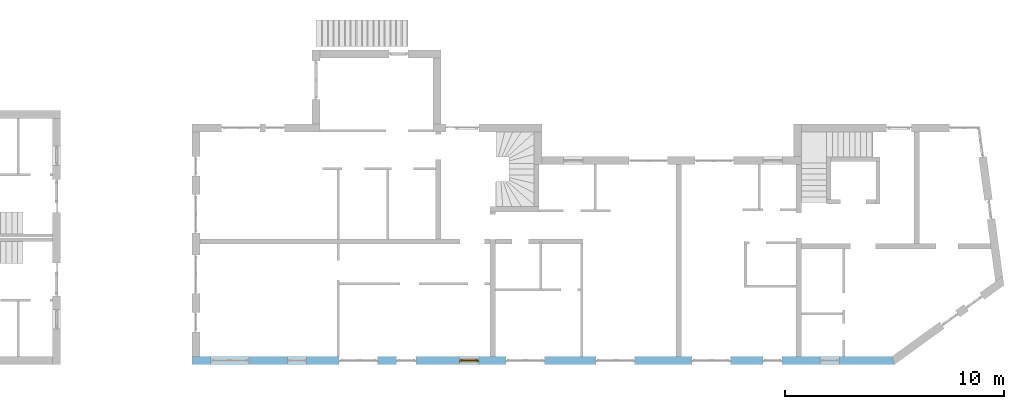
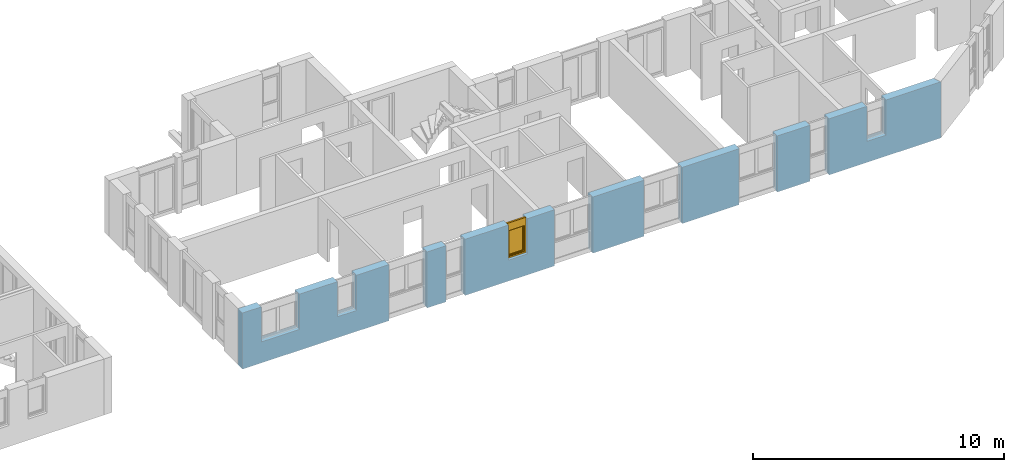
# One storey, part 27 of 41: 1 window, 10 openings, plus 1 element that does not belong to this part.
"""IFC2X3 building model written with IfcOpenShell, lengths in millimetres."""

from ifc_helpers import new_model, entity, si_unit, converted_unit, frame, frame_2d, origin, origin_with_axes, place, context, subcontext, project, spatial, polyline, rectangle, outline, extrude, faceted_brep, material, layer, layer_set, layer_usage, type_object, element, fill, save


model = new_model("IFC2X3")

# Units and contexts
model_context = context("Model", 3, precision=1e-05, world=origin())
body_context = subcontext(model_context, "Body", "Model", "MODEL_VIEW")
ifc_project = project(units=[si_unit("LENGTHUNIT", "METRE", prefix="MILLI"), converted_unit("PLANEANGLEUNIT", "DEGREE", entity("IfcPlaneAngleMeasure", 0.0174532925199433), si_unit("PLANEANGLEUNIT", "RADIAN"), dimensions=[0, 0, 0, 0, 0, 0, 0]), si_unit("AREAUNIT", "SQUARE_METRE"), si_unit("VOLUMEUNIT", "CUBIC_METRE")], contexts=[model_context])

# Building, storey
building_placement = place(None, origin())
building = spatial("IfcBuilding", under=ifc_project, at=building_placement, Name="Gebäude", CompositionType="ELEMENT")
storey_placement = place(building_placement, frame((0.0, 0.0, -200.0), z_axis=(0.0, 0.0, 1.0), x_axis=(1.0, 0.0, 0.0)))
storey = spatial("IfcBuildingStorey", under=building, at=storey_placement, Name="EG.- Grundriss", CompositionType="ELEMENT", Elevation=-200.0)

# Wall, openings, window
ifc_material_1 = material(Name="Poroton")
ifc_layer = layer(ifc_material_1, 365.0000000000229)
ifc_layer_set = layer_set([ifc_layer])
ifc_layer_usage = layer_usage(ifc_layer_set, "AXIS2", "POSITIVE", 0.0)
wall_placement = place(storey_placement, frame((148357.7928067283, 125274.8877324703, 0.0), z_axis=(0.0, 0.0, 1.0), x_axis=(1.0, -2.749268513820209e-11, 0.0)))
wall = element("IfcWallStandardCase", 1, at=wall_placement, inside=storey, material=ifc_layer_usage, Name="<Unnamed Element>", context=body_context, shape_type="SweptSolid", body=[
    extrude(outline(polyline([(0.0, 0.0), (32144.99999877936, 0.0), (32026.74038666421, 365.0000000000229), (-1.003483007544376e-08, 365.0), (0.0, 0.0)])), origin_with_axes(), (0.0, 0.0, 1.0), 2730.0),
])
opening_1_placement = place(wall_placement, frame((28740.29648749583, -1.103025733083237e-10, 1020.0), z_axis=(0.0, 1.0, 0.0), x_axis=(0.0, 0.0, 1.0)))
element("IfcOpeningElement", 2, at=opening_1_placement, cuts=wall, Name="Fensteröffnung", ObjectType="Opening", context=body_context, shape_type="SweptSolid", body=[
    extrude(rectangle(XDim=1710.0, YDim=885.0, at=frame_2d((855.0, 442.5), x_axis=(1.0, 0.0))), origin_with_axes(), (0.0, 0.0, 1.0), 365.0000000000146),
])
opening_2_placement = place(wall_placement, frame((26115.29648749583, -1.048456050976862e-10, 0.0), z_axis=(0.0, 1.0, 0.0), x_axis=(0.0, 0.0, 1.0)))
element("IfcOpeningElement", 3, at=opening_2_placement, cuts=wall, Name="Fensteröffnung", ObjectType="Opening", context=body_context, shape_type="SweptSolid", body=[
    extrude(rectangle(XDim=2730.0, YDim=885.0, at=frame_2d((1365.0, 442.5), x_axis=(1.0, 0.0))), origin_with_axes(), (0.0, 0.0, 1.0), 365.0000000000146),
])
opening_3_placement = place(wall_placement, frame((22865.29648749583, -7.937975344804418e-11, 0.0), z_axis=(0.0, 1.0, 0.0), x_axis=(0.0, 0.0, 1.0)))
element("IfcOpeningElement", 4, at=opening_3_placement, cuts=wall, Name="Fensteröffnung", ObjectType="Opening", context=body_context, shape_type="SweptSolid", body=[
    extrude(rectangle(XDim=2730.0, YDim=1760.0, at=frame_2d((1365.0, 880.0), x_axis=(1.0, 0.0))), origin_with_axes(), (0.0, 0.0, 1.0), 365.0000000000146),
])
opening_4_placement = place(wall_placement, frame((18490.51063065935, -4.984640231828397e-11, 0.0), z_axis=(0.0, 1.0, 0.0), x_axis=(0.0, 0.0, 1.0)))
element("IfcOpeningElement", 5, at=opening_4_placement, cuts=wall, Name="Fensteröffnung", ObjectType="Opening", context=body_context, shape_type="SweptSolid", body=[
    extrude(rectangle(XDim=2730.0, YDim=1760.0, at=frame_2d((1365.0, 880.0), x_axis=(1.0, 0.0))), origin_with_axes(), (0.0, 0.0, 1.0), 365.0000000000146),
])
opening_5_placement = place(wall_placement, frame((14365.26291871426, -7.302655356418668e-11, 0.0), z_axis=(0.0, 1.0, 0.0), x_axis=(0.0, 0.0, 1.0)))
element("IfcOpeningElement", 6, at=opening_5_placement, cuts=wall, Name="Fensteröffnung", ObjectType="Opening", context=body_context, shape_type="SweptSolid", body=[
    extrude(rectangle(XDim=2730.0, YDim=1760.0, at=frame_2d((1365.0, 880.0), x_axis=(1.0, 0.0))), origin_with_axes(), (0.0, 0.0, 1.0), 365.0000000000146),
])
opening_6_placement = place(wall_placement, frame((12240.0, -5.296897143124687e-11, 1020.0), z_axis=(0.0, 1.0, 0.0), x_axis=(0.0, 0.0, 1.0)))
opening_6 = element("IfcOpeningElement", 7, at=opening_6_placement, cuts=wall, Name="Fensteröffnung", ObjectType="Opening", context=body_context, shape_type="SweptSolid", body=[
    extrude(rectangle(XDim=1710.0, YDim=885.0, at=frame_2d((855.0, 442.5), x_axis=(1.0, 0.0))), origin_with_axes(), (0.0, 0.0, 1.0), 365.0000000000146),
])
opening_7_placement = place(wall_placement, frame((9365.0, -3.659806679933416e-11, 0.0), z_axis=(0.0, 1.0, 0.0), x_axis=(0.0, 0.0, 1.0)))
element("IfcOpeningElement", 8, at=opening_7_placement, cuts=wall, Name="Fensteröffnung", ObjectType="Opening", context=body_context, shape_type="SweptSolid", body=[
    extrude(rectangle(XDim=2730.0, YDim=885.0, at=frame_2d((1365.0, 442.5), x_axis=(1.0, 0.0))), origin_with_axes(), (0.0, 0.0, 1.0), 365.0000000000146),
])
opening_8_placement = place(wall_placement, frame((6740.0, -3.114109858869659e-11, 0.0), z_axis=(0.0, 1.0, 0.0), x_axis=(0.0, 0.0, 1.0)))
element("IfcOpeningElement", 9, at=opening_8_placement, cuts=wall, Name="Fensteröffnung", ObjectType="Opening", context=body_context, shape_type="SweptSolid", body=[
    extrude(rectangle(XDim=2730.0, YDim=1760.0, at=frame_2d((1365.0, 880.0), x_axis=(1.0, 0.0))), origin_with_axes(), (0.0, 0.0, 1.0), 365.0000000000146),
])
opening_9_placement = place(wall_placement, frame((4365.0, -7.494236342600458e-12, 1020.0), z_axis=(0.0, 1.0, 0.0), x_axis=(0.0, 0.0, 1.0)))
element("IfcOpeningElement", 10, at=opening_9_placement, cuts=wall, Name="Fensteröffnung", ObjectType="Opening", context=body_context, shape_type="SweptSolid", body=[
    extrude(rectangle(XDim=1710.0, YDim=885.0, at=frame_2d((855.0, 442.5), x_axis=(1.0, 0.0))), origin_with_axes(), (0.0, 0.0, 1.0), 365.0000000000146),
])
opening_10_placement = place(wall_placement, frame((865.0, -2.182787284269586e-13, 1020.0), z_axis=(0.0, 1.0, 0.0), x_axis=(0.0, 0.0, 1.0)))
element("IfcOpeningElement", 11, at=opening_10_placement, cuts=wall, Name="Fensteröffnung", ObjectType="Opening", context=body_context, shape_type="SweptSolid", body=[
    extrude(rectangle(XDim=1710.0, YDim=1760.0, at=frame_2d((854.9999999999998, 880.0), x_axis=(1.0, 0.0))), origin_with_axes(), (0.0, 0.0, 1.0), 365.0000000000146),
])
ifc_material_2 = material()
window_style = type_object("IfcWindowStyle", Name="Fenster", ConstructionType="NOTDEFINED", OperationType="USERDEFINED", ParameterTakesPrecedence=False, Sizeable=False)
window_placement = place(opening_6_placement, frame((0.0, 0.0, 0.0), z_axis=(1.0, 0.0, 0.0), x_axis=(0.0, 1.0, 0.0)))
window = element("IfcWindow", 12, at=window_placement, inside=storey, type_object=window_style, material=ifc_material_2, Name="Fenster", OverallHeight=1710.0, OverallWidth=885.0, context=body_context, shape_type="Brep", body=[
    faceted_brep([(-1.221113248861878e-08, 200.000000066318, 1710.0), (-1.221113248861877e-08, 200.0000000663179, -2.449293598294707e-15), (69.99999998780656, 200.0000000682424, -2.449293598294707e-15), (69.99999998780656, 200.0000000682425, 1710.0), (-1.001171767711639e-08, 120.0000000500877, 2.449293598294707e-15), (-1.00117176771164e-08, 120.0000000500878, 1710.0), (69.99999999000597, 120.0000000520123, 1710.0), (69.99999999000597, 120.0000000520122, 2.449293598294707e-15), (-1.221113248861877e-08, 200.0000000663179, -2.449293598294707e-15), (-1.221113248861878e-08, 200.000000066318, 1710.0), (-1.00117176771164e-08, 120.0000000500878, 1710.0), (-1.001171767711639e-08, 120.0000000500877, 2.449293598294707e-15), (69.99999998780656, 200.0000000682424, -2.449293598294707e-15), (-1.221113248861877e-08, 200.0000000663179, -2.449293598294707e-15), (-1.001171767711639e-08, 120.0000000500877, 2.449293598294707e-15), (69.99999999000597, 120.0000000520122, 2.449293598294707e-15), (69.99999998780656, 200.0000000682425, 1710.0), (69.99999998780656, 200.0000000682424, -2.449293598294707e-15), (69.99999999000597, 120.0000000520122, 2.449293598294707e-15), (69.99999999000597, 120.0000000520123, 1710.0), (-1.221113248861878e-08, 200.000000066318, 1710.0), (69.99999998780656, 200.0000000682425, 1710.0), (69.99999999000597, 120.0000000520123, 1710.0), (-1.00117176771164e-08, 120.0000000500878, 1710.0)], [[[0, 1, 2, 3]], [[4, 5, 6, 7]], [[8, 9, 10, 11]], [[12, 13, 14, 15]], [[16, 17, 18, 19]], [[20, 21, 22, 23]]], orient=[[False], [False], [False], [False], [False], [False]]),
    faceted_brep([(814.9999999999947, 200.0000000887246, 1710.0), (814.9999999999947, 200.0000000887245, -2.449293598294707e-15), (885.0000000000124, 200.0000000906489, -2.449293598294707e-15), (885.0000000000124, 200.0000000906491, 1710.0), (815.000000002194, 120.0000000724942, 2.449293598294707e-15), (815.000000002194, 120.0000000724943, 1710.0), (885.0000000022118, 120.0000000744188, 1710.0), (885.0000000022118, 120.0000000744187, 2.449293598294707e-15), (814.9999999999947, 200.0000000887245, -2.449293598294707e-15), (814.9999999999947, 200.0000000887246, 1710.0), (815.000000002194, 120.0000000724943, 1710.0), (815.000000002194, 120.0000000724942, 2.449293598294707e-15), (885.0000000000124, 200.0000000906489, -2.449293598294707e-15), (814.9999999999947, 200.0000000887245, -2.449293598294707e-15), (815.000000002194, 120.0000000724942, 2.449293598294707e-15), (885.0000000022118, 120.0000000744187, 2.449293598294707e-15), (885.0000000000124, 200.0000000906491, 1710.0), (885.0000000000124, 200.0000000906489, -2.449293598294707e-15), (885.0000000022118, 120.0000000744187, 2.449293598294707e-15), (885.0000000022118, 120.0000000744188, 1710.0), (814.9999999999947, 200.0000000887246, 1710.0), (885.0000000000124, 200.0000000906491, 1710.0), (885.0000000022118, 120.0000000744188, 1710.0), (815.000000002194, 120.0000000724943, 1710.0)], [[[0, 1, 2, 3]], [[4, 5, 6, 7]], [[8, 9, 10, 11]], [[12, 13, 14, 15]], [[16, 17, 18, 19]], [[20, 21, 22, 23]]], orient=[[False], [False], [False], [False], [False], [False]]),
    faceted_brep([(69.99999998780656, 200.0000000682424, 70.0), (69.99999998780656, 200.0000000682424, -2.449293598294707e-15), (814.9999999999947, 200.0000000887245, -2.449293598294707e-15), (814.9999999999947, 200.0000000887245, 70.0), (69.99999999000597, 120.0000000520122, 2.449293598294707e-15), (69.99999999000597, 120.0000000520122, 70.0), (815.000000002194, 120.0000000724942, 70.0), (815.000000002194, 120.0000000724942, 2.449293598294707e-15), (69.99999998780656, 200.0000000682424, -2.449293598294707e-15), (69.99999998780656, 200.0000000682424, 70.0), (69.99999999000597, 120.0000000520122, 70.0), (69.99999999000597, 120.0000000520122, 2.449293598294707e-15), (814.9999999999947, 200.0000000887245, -2.449293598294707e-15), (69.99999998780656, 200.0000000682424, -2.449293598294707e-15), (69.99999999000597, 120.0000000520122, 2.449293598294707e-15), (815.000000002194, 120.0000000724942, 2.449293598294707e-15), (814.9999999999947, 200.0000000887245, 70.0), (814.9999999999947, 200.0000000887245, -2.449293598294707e-15), (815.000000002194, 120.0000000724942, 2.449293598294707e-15), (815.000000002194, 120.0000000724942, 70.0), (69.99999998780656, 200.0000000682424, 70.0), (814.9999999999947, 200.0000000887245, 70.0), (815.000000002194, 120.0000000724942, 70.0), (69.99999999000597, 120.0000000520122, 70.0)], [[[0, 1, 2, 3]], [[4, 5, 6, 7]], [[8, 9, 10, 11]], [[12, 13, 14, 15]], [[16, 17, 18, 19]], [[20, 21, 22, 23]]], orient=[[False], [False], [False], [False], [False], [False]]),
    faceted_brep([(69.99999998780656, 200.0000000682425, 1710.0), (69.99999998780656, 200.0000000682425, 1340.0), (814.9999999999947, 200.0000000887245, 1340.0), (814.9999999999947, 200.0000000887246, 1710.0), (69.99999999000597, 120.0000000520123, 1340.0), (69.99999999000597, 120.0000000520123, 1710.0), (815.000000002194, 120.0000000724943, 1710.0), (815.000000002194, 120.0000000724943, 1340.0), (69.99999998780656, 200.0000000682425, 1340.0), (69.99999998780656, 200.0000000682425, 1710.0), (69.99999999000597, 120.0000000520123, 1710.0), (69.99999999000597, 120.0000000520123, 1340.0), (814.9999999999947, 200.0000000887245, 1340.0), (69.99999998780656, 200.0000000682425, 1340.0), (69.99999999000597, 120.0000000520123, 1340.0), (815.000000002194, 120.0000000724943, 1340.0), (814.9999999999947, 200.0000000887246, 1710.0), (814.9999999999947, 200.0000000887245, 1340.0), (815.000000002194, 120.0000000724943, 1340.0), (815.000000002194, 120.0000000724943, 1710.0), (69.99999998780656, 200.0000000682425, 1710.0), (814.9999999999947, 200.0000000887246, 1710.0), (815.000000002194, 120.0000000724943, 1710.0), (69.99999999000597, 120.0000000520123, 1710.0)], [[[0, 1, 2, 3]], [[4, 5, 6, 7]], [[8, 9, 10, 11]], [[12, 13, 14, 15]], [[16, 17, 18, 19]], [[20, 21, 22, 23]]], orient=[[False], [False], [False], [False], [False], [False]]),
    faceted_brep([(49.9999999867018, 240.0000000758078, 1360.0), (49.9999999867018, 240.0000000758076, 50.0), (119.9999999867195, 240.0000000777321, 50.0), (119.9999999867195, 240.0000000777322, 1360.0), (49.99999998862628, 170.0000000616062, 50.00000000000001), (49.99999998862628, 170.0000000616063, 1360.0), (119.999999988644, 170.0000000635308, 1360.0), (119.999999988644, 170.0000000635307, 50.00000000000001), (49.9999999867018, 240.0000000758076, 50.0), (49.9999999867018, 240.0000000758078, 1360.0), (49.99999998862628, 170.0000000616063, 1360.0), (49.99999998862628, 170.0000000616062, 50.00000000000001), (119.9999999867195, 240.0000000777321, 50.0), (49.9999999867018, 240.0000000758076, 50.0), (49.99999998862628, 170.0000000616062, 50.00000000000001), (119.999999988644, 170.0000000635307, 50.00000000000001), (119.9999999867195, 240.0000000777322, 1360.0), (119.9999999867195, 240.0000000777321, 50.0), (119.999999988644, 170.0000000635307, 50.00000000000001), (119.999999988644, 170.0000000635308, 1360.0), (49.9999999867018, 240.0000000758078, 1360.0), (119.9999999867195, 240.0000000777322, 1360.0), (119.999999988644, 170.0000000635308, 1360.0), (49.99999998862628, 170.0000000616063, 1360.0)], [[[0, 1, 2, 3]], [[4, 5, 6, 7]], [[8, 9, 10, 11]], [[12, 13, 14, 15]], [[16, 17, 18, 19]], [[20, 21, 22, 23]]], orient=[[False], [False], [False], [False], [False], [False]]),
    faceted_brep([(764.9999999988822, 240.000000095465, 1360.0), (764.9999999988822, 240.0000000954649, 50.0), (834.9999999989, 240.0000000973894, 50.0), (834.9999999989, 240.0000000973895, 1360.0), (765.0000000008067, 170.0000000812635, 50.00000000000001), (765.0000000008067, 170.0000000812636, 1360.0), (835.0000000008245, 170.0000000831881, 1360.0), (835.0000000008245, 170.000000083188, 50.00000000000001), (764.9999999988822, 240.0000000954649, 50.0), (764.9999999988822, 240.000000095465, 1360.0), (765.0000000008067, 170.0000000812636, 1360.0), (765.0000000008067, 170.0000000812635, 50.00000000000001), (834.9999999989, 240.0000000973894, 50.0), (764.9999999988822, 240.0000000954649, 50.0), (765.0000000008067, 170.0000000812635, 50.00000000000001), (835.0000000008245, 170.000000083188, 50.00000000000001), (834.9999999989, 240.0000000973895, 1360.0), (834.9999999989, 240.0000000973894, 50.0), (835.0000000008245, 170.000000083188, 50.00000000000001), (835.0000000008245, 170.0000000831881, 1360.0), (764.9999999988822, 240.000000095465, 1360.0), (834.9999999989, 240.0000000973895, 1360.0), (835.0000000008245, 170.0000000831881, 1360.0), (765.0000000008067, 170.0000000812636, 1360.0)], [[[0, 1, 2, 3]], [[4, 5, 6, 7]], [[8, 9, 10, 11]], [[12, 13, 14, 15]], [[16, 17, 18, 19]], [[20, 21, 22, 23]]], orient=[[False], [False], [False], [False], [False], [False]]),
    faceted_brep([(119.9999999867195, 240.0000000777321, 120.0), (119.9999999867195, 240.0000000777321, 50.0), (764.9999999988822, 240.0000000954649, 50.0), (764.9999999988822, 240.0000000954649, 120.0), (119.999999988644, 170.0000000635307, 50.00000000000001), (119.999999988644, 170.0000000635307, 120.0), (765.0000000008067, 170.0000000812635, 120.0), (765.0000000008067, 170.0000000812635, 50.00000000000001), (119.9999999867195, 240.0000000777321, 50.0), (119.9999999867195, 240.0000000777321, 120.0), (119.999999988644, 170.0000000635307, 120.0), (119.999999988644, 170.0000000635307, 50.00000000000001), (764.9999999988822, 240.0000000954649, 50.0), (119.9999999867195, 240.0000000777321, 50.0), (119.999999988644, 170.0000000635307, 50.00000000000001), (765.0000000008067, 170.0000000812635, 50.00000000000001), (764.9999999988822, 240.0000000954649, 120.0), (764.9999999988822, 240.0000000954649, 50.0), (765.0000000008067, 170.0000000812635, 50.00000000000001), (765.0000000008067, 170.0000000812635, 120.0), (119.9999999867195, 240.0000000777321, 120.0), (764.9999999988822, 240.0000000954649, 120.0), (765.0000000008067, 170.0000000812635, 120.0), (119.999999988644, 170.0000000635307, 120.0)], [[[0, 1, 2, 3]], [[4, 5, 6, 7]], [[8, 9, 10, 11]], [[12, 13, 14, 15]], [[16, 17, 18, 19]], [[20, 21, 22, 23]]], orient=[[False], [False], [False], [False], [False], [False]]),
    faceted_brep([(119.9999999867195, 240.0000000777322, 1360.0), (119.9999999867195, 240.0000000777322, 1290.0), (764.9999999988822, 240.000000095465, 1290.0), (764.9999999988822, 240.000000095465, 1360.0), (119.999999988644, 170.0000000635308, 1290.0), (119.999999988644, 170.0000000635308, 1360.0), (765.0000000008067, 170.0000000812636, 1360.0), (765.0000000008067, 170.0000000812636, 1290.0), (119.9999999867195, 240.0000000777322, 1290.0), (119.9999999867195, 240.0000000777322, 1360.0), (119.999999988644, 170.0000000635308, 1360.0), (119.999999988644, 170.0000000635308, 1290.0), (764.9999999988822, 240.000000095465, 1290.0), (119.9999999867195, 240.0000000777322, 1290.0), (119.999999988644, 170.0000000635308, 1290.0), (765.0000000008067, 170.0000000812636, 1290.0), (764.9999999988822, 240.000000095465, 1360.0), (764.9999999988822, 240.000000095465, 1290.0), (765.0000000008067, 170.0000000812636, 1290.0), (765.0000000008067, 170.0000000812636, 1360.0), (119.9999999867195, 240.0000000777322, 1360.0), (764.9999999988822, 240.000000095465, 1360.0), (765.0000000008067, 170.0000000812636, 1360.0), (119.999999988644, 170.0000000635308, 1360.0)], [[[0, 1, 2, 3]], [[4, 5, 6, 7]], [[8, 9, 10, 11]], [[12, 13, 14, 15]], [[16, 17, 18, 19]], [[20, 21, 22, 23]]], orient=[[False], [False], [False], [False], [False], [False]]),
    faceted_brep([(119.9999999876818, 205.0000000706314, 120.0), (764.9999999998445, 205.0000000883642, 120.0), (764.9999999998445, 205.0000000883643, 1290.0), (119.9999999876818, 205.0000000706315, 1290.0), (119.9999999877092, 204.0000000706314, 120.0), (119.9999999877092, 204.0000000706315, 1290.0), (764.999999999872, 204.0000000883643, 1290.0), (764.999999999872, 204.0000000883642, 120.0), (119.9999999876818, 205.0000000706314, 120.0), (119.9999999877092, 204.0000000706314, 120.0), (764.999999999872, 204.0000000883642, 120.0), (764.9999999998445, 205.0000000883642, 120.0), (764.9999999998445, 205.0000000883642, 120.0), (764.999999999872, 204.0000000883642, 120.0), (764.999999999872, 204.0000000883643, 1290.0), (764.9999999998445, 205.0000000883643, 1290.0), (764.9999999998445, 205.0000000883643, 1290.0), (764.999999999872, 204.0000000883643, 1290.0), (119.9999999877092, 204.0000000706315, 1290.0), (119.9999999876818, 205.0000000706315, 1290.0), (119.9999999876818, 205.0000000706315, 1290.0), (119.9999999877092, 204.0000000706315, 1290.0), (119.9999999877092, 204.0000000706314, 120.0), (119.9999999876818, 205.0000000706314, 120.0)], [[[0, 1, 2, 3]], [[4, 5, 6, 7]], [[8, 9, 10, 11]], [[12, 13, 14, 15]], [[16, 17, 18, 19]], [[20, 21, 22, 23]]], orient=[[False], [False], [False], [False], [False], [False]]),
])
fill(opening_6, window)

save(model, "model.ifc")
